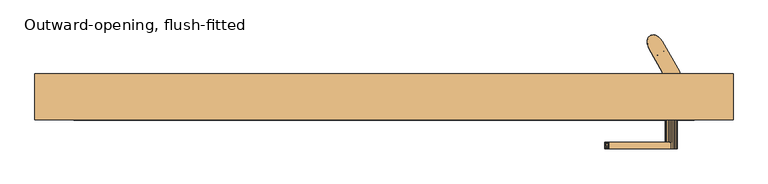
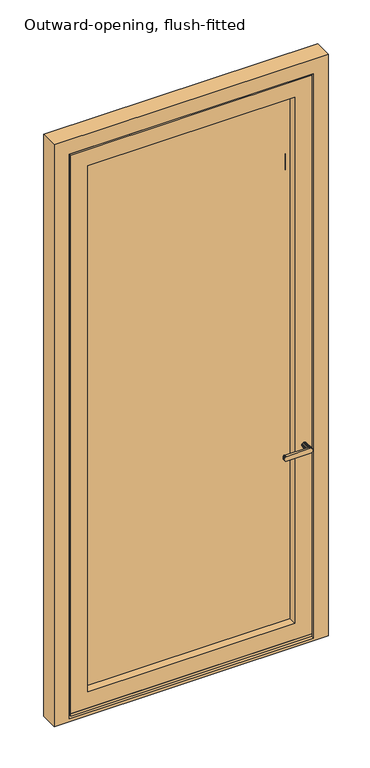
"""IFC4 building model written with IfcOpenShell, lengths in millimetres: door geometry, Outward-opening, flush-fitted."""

from ifc_helpers import new_model, si_unit, frame, origin, place, context, project, spatial, polyline, outline, extrude, faceted_brep, source, transform, mapped, element, save


def outward_opening_flush_fitted_d35c1155(model_context):
    return source(origin(), model_context, "Body", "SolidModel", [
        faceted_brep([(1042.3392583, 307.3, 3138.5), (1042.3392583, 307.3, 178.5), (1042.3392583, 380.7, 178.5), (1042.3392583, 380.7, 3138.5), (1062.8392583, 380.7, 3159.0), (-199.0, 380.7, 3159.0), (-199.0, 380.7, 158.0), (1062.8392583, 380.7, 158.0), (-178.5, 380.7, 3138.5), (-178.5, 380.7, 178.5), (-178.5, 307.3, 178.5), (-178.5, 307.3, 3138.5), (-167.0, 307.3, 3127.0), (1030.8392583, 307.3, 3127.0), (1030.8392583, 307.3, 190.0), (-167.0, 307.3, 190.0), (1030.8392583, 299.0, 3127.0), (1030.8392583, 299.0, 190.0), (-167.0, 299.0, 190.0), (-167.0, 299.0, 3127.0), (-81.9999695, 299.0, 3041.9999695), (945.8392277, 299.0, 3041.9999695), (945.8392277, 299.0, 275.0000305), (-81.9999695, 299.0, 275.0000305), (945.8392277, 340.0, 3041.9999695), (945.8392277, 340.0, 275.0000305), (-81.9999695, 340.0, 275.0000305), (-97.0, 340.0, 3057.0), (960.8392583, 340.0, 3057.0), (960.8392583, 340.0, 260.0), (-97.0, 340.0, 260.0), (-81.9999695, 340.0, 3041.9999695), (960.8392583, 378.0, 3057.0), (960.8392583, 378.0, 260.0), (-97.0, 378.0, 260.0), (-97.0, 378.0, 3057.0), (-80.0, 378.0, 3040.0), (943.8392583, 378.0, 3040.0), (943.8392583, 378.0, 277.0), (-80.0, 378.0, 277.0), (943.8392583, 389.0, 3040.0), (943.8392583, 389.0, 277.0), (-80.0, 389.0, 277.0), (-199.0, 389.0, 3159.0), (1062.8392583, 389.0, 3159.0), (1062.8392583, 389.0, 158.0), (-199.0, 389.0, 158.0), (-80.0, 389.0, 3040.0)], [[[0, 1, 2, 3]], [[4, 5, 6, 7], [8, 3, 2, 9]], [[1, 10, 9, 2]], [[0, 11, 10, 1], [12, 13, 14, 15]], [[16, 17, 14, 13]], [[17, 18, 15, 14]], [[16, 19, 18, 17], [20, 21, 22, 23]], [[24, 25, 22, 21]], [[25, 26, 23, 22]], [[27, 28, 29, 30], [24, 31, 26, 25]], [[32, 33, 29, 28]], [[33, 34, 30, 29]], [[32, 35, 34, 33], [36, 37, 38, 39]], [[40, 41, 38, 37]], [[41, 42, 39, 38]], [[43, 44, 45, 46], [40, 47, 42, 41]], [[4, 7, 45, 44]], [[7, 6, 46, 45]], [[10, 11, 8, 9]], [[18, 19, 12, 15]], [[26, 31, 20, 23]], [[34, 35, 27, 30]], [[42, 47, 36, 39]], [[6, 5, 43, 46]], [[11, 0, 3, 8]], [[19, 16, 13, 12]], [[31, 24, 21, 20]], [[35, 32, 28, 27]], [[47, 40, 37, 36]], [[5, 4, 44, 43]]]),
        extrude(outline(polyline([(960.8392583, 378.0), (960.8392583, 340.0), (-97.0, 340.0), (-97.0, 378.0), (960.8392583, 378.0)])), frame((0.0, 0.0, 260.0), z_axis=(0.0, 0.0, 1.0), x_axis=(1.0, 0.0, 0.0)), (0.0, 0.0, 1.0), 2797.0),
        faceted_brep([(-174.0, 299.0, 3134.0), (-174.0, 299.0, 165.0072496), (-174.0, 307.3, 167.8651688), (-174.0, 307.3, 3134.0), (-194.5, 307.3, 167.8651688), (-194.5, 307.3, 3154.5), (1058.3392583, 307.3, 3154.5), (1058.3392583, 307.3, 167.8651688), (1037.8392583, 307.3, 167.8651688), (1037.8392583, 307.3, 3134.0), (-194.5, 313.5, 170.0), (-194.5, 321.0, 170.0), (-194.5, 321.0, 164.3), (-194.5, 380.7, 164.3), (-194.5, 380.7, 3154.5), (-206.0, 388.9993365, 150.0), (-206.0, 388.9993365, 3166.0), (-206.0, 380.7, 3166.0), (-206.0, 380.7, 150.0), (-250.0, 388.9993365, 150.0), (-250.0, 388.9993365, 3210.0), (1113.8392583, 388.9993365, 3210.0), (1113.8392583, 388.9993365, 150.0), (1069.8392583, 388.9993365, 150.0), (1069.8392583, 388.9993365, 3166.0), (1037.8392583, 299.0, 165.0072496), (1037.8392583, 299.0, 3134.0), (1069.8392583, 380.7, 150.0), (1069.8392583, 380.7, 3166.0), (1058.3392583, 380.7, 3154.5), (1058.3392583, 380.7, 164.3), (1058.3392583, 321.0, 164.3), (1058.3392583, 321.0, 170.0), (1058.3392583, 313.5, 170.0), (-250.0, 299.0, 3210.0), (1113.8392583, 299.0, 3210.0), (-250.0, 299.0, 150.0), (1113.8392583, 299.0, 150.0)], [[[0, 1, 2, 3]], [[3, 2, 4, 5, 6, 7, 8, 9]], [[5, 4, 10, 11, 12, 13, 14]], [[15, 16, 17, 18]], [[19, 20, 21, 22, 23, 24, 16, 15]], [[9, 8, 25, 26]], [[24, 23, 27, 28]], [[29, 30, 31, 32, 33, 7, 6]], [[26, 0, 3, 9]], [[28, 17, 16, 24]], [[21, 20, 34, 35]], [[29, 6, 5, 14]], [[19, 36, 34, 20]], [[35, 37, 22, 21]], [[37, 35, 34, 36], [1, 0, 26, 25]], [[19, 15, 18, 27, 23, 22, 37, 36]], [[10, 4, 2, 1, 25, 8, 7, 33]], [[18, 17, 28, 27], [30, 29, 14, 13]], [[13, 12, 31, 30]], [[12, 11, 32, 31]], [[11, 10, 33, 32]]]),
        faceted_brep([(958.6459802, 464.9671188, 3103.5), (955.1598936, 464.7977178, 3103.5), (952.0594987, 463.6325784, 3103.5), (949.5002623, 461.5301259, 3103.5), (947.6105152, 458.5957857, 3103.5), (946.4850171, 454.9766982, 3103.5), (946.1802052, 450.8543393, 3103.5), (946.7113641, 446.4354214, 3103.5), (948.0518593, 441.9415275, 3103.5), (950.1344727, 437.5980002, 3103.5), (952.8547733, 433.622642, 3103.5), (956.0763541, 430.2147941, 3103.5), (959.6376714, 427.5453402, 3103.5), (963.3601459, 425.7481378, 3103.5), (967.0571172, 424.9133062, 3103.5), (970.5432038, 425.0827073, 3103.5), (973.6435986, 426.2478466, 3103.5), (976.202835, 428.3502991, 3103.5), (978.0925822, 431.2846393, 3103.5), (979.2180803, 434.9037268, 3103.5), (979.5228922, 439.0260857, 3103.5), (978.9917333, 443.4450036, 3103.5), (977.6512381, 447.9388975, 3103.5), (975.5686247, 452.2824248, 3103.5), (972.848324, 456.257783, 3103.5), (969.6267433, 459.6656309, 3103.5), (966.065426, 462.3350848, 3103.5), (962.3429515, 464.1322872, 3103.5), (976.202835, 428.3502991, 213.5), (973.6435986, 426.2478466, 213.5), (970.5432038, 425.0827073, 213.5), (967.0571172, 424.9133062, 213.5), (963.3601459, 425.7481378, 213.5), (959.6376714, 427.5453402, 213.5), (956.0763541, 430.2147941, 213.5), (952.8547733, 433.622642, 213.5), (950.1344727, 437.5980002, 213.5), (948.0518593, 441.9415275, 213.5), (946.7113641, 446.4354214, 213.5), (946.1802052, 450.8543393, 213.5), (946.4850171, 454.9766982, 213.5), (947.6105152, 458.5957857, 213.5), (949.5002623, 461.5301259, 213.5), (952.0594987, 463.6325784, 213.5), (955.1598936, 464.7977178, 213.5), (958.6459802, 464.9671188, 213.5), (962.3429515, 464.1322872, 213.5), (966.065426, 462.3350848, 213.5), (969.6267433, 459.6656309, 213.5), (972.848324, 456.257783, 213.5), (975.5686247, 452.2824248, 213.5), (977.6512381, 447.9388975, 213.5), (978.9917333, 443.4450036, 213.5), (979.5228922, 439.0260857, 213.5), (979.2180803, 434.9037268, 213.5), (978.0925822, 431.2846393, 213.5), (952.2887256, 463.7609343, 3039.7612202), (950.1344727, 437.5980002, 304.783489), (946.9477657, 456.8611962, 306.3237695), (960.4795512, 464.6737836, 3010.676228), (960.4795527, 464.6737832, 297.4293988), (959.0804371, 464.9198052, 446.6944318), (965.5122092, 462.6633417, 369.3240477), (953.5512165, 464.3371113, 368.0172447), (947.4290248, 458.1834463, 2875.4794892), (946.1725344, 451.4975723, 2947.6759605), (950.7034961, 462.6929778, 2948.98274), (953.2213947, 464.2065607, 2478.1094389), (964.9375224, 462.9813242, 2433.366327), (953.1615747, 464.18144, 2387.972511), (950.1344727, 437.5980002, 3012.216511), (975.5686247, 452.2824248, 3012.2165134), (975.5686247, 452.2824248, 304.7834866), (962.949455, 463.90456, 2922.0327645), (946.3789826, 454.3375828, 394.9672499), (950.1344727, 437.5980002, 396.066978), (951.8337255, 463.4982397, 277.2387736), (962.3830777, 464.1179974, 1435.6433105), (975.5686247, 452.2824248, 1491.4688512), (975.5686247, 452.2824248, 1479.816978), (975.5686247, 452.2824248, 1400.185359), (949.0311392, 460.9617113, 459.8390978), (953.8995907, 464.4609039, 526.5775533), (965.0997692, 462.8939051, 2701.4632106), (954.3276107, 464.5941609, 2731.5722903), (964.1727845, 463.3686784, 2789.8337304), (946.9477665, 456.8611986, 3019.5705949), (963.6876072, 463.5934845, 898.1262183), (964.4377647, 463.2390529, 991.9541054), (975.5686247, 452.2824248, 943.767915), (975.5686247, 452.2824248, 2920.9330213), (975.5686247, 452.2824248, 2833.5334894), (975.5686247, 452.2824248, 2829.649533), (975.5686247, 452.2824248, 2746.1339575), (946.204234, 450.2518328, 715.5592395), (946.1992756, 452.5037097, 806.8427277), (948.405811, 460.0659174, 753.748835), (963.6019504, 463.6314948, 2242.6546305), (949.326168, 461.3281065, 2186.2171541), (951.5970643, 463.3485788, 2283.8905959), (962.5876506, 464.0434335, 1517.9321883), (950.9734027, 462.9071638, 1569.1585234), (962.9986638, 463.8849811, 1613.8704529), (952.3076457, 463.771178, 2656.7924568), (952.7585443, 464.0001544, 2567.4509478), (946.2328093, 453.0285127, 2607.3749737), (952.0594987, 463.6325784, 1035.0514496), (950.9471644, 462.8869902, 938.4578574), (946.1734135, 451.2320884, 1881.8538044), (950.1344727, 437.5980002, 1837.183022), (950.1344727, 437.5980002, 1852.7188505), (950.1344727, 437.5980002, 1926.524533), (950.870913, 462.8275832, 1125.837811), (961.1086047, 464.517869, 1168.8726905), (963.7473428, 463.5666791, 1085.9473652), (950.9246591, 462.8695777, 1212.7139165), (946.1813416, 452.0537925, 1256.4632408), (950.7810268, 462.7560369, 1300.8775569), (950.9734026, 462.9071638, 1658.5823811), (946.1840297, 452.1403125, 1613.8292772), (946.1724667, 451.4091556, 2149.8783316), (950.1344727, 437.5980002, 2105.2075549), (950.1344727, 437.5980002, 2120.7433821), (950.1344727, 437.5980002, 2194.5490659), (975.5686247, 452.2824248, 1852.718854), (964.9472432, 462.9761385, 1808.0481216), (964.7349068, 463.0879095, 1899.8226875), (964.373556, 463.2709086, 2612.1217017), (946.1757368, 451.8128215, 1527.5583067), (950.1344727, 437.5980002, 1479.816978), (950.1344727, 437.5980002, 1491.4688498), (950.1344727, 437.5980002, 1569.158489), (951.5970642, 463.3485788, 1747.8415416), (946.2391269, 453.1083165, 1797.4267243), (952.5143149, 463.879689, 1844.8045559), (975.5686247, 452.2824248, 2478.109427), (964.9441315, 462.9777992, 2522.7801928), (950.8379452, 462.8015344, 2802.6217509), (955.1962103, 464.8050118, 2868.0801076), (946.1934997, 452.3830403, 1705.6035919), (975.5686247, 452.2824248, 852.4844284), (950.1344727, 437.5980002, 1211.7924451), (950.1344727, 437.5980002, 1217.6183832), (950.1344727, 437.5980002, 1301.133956), (975.5686247, 452.2824248, 1763.3773419), (964.4484628, 463.2337175, 1718.7066128), (946.1981492, 452.481305, 2327.1169999), (946.1968537, 452.4549077, 2418.8738478), (963.2217114, 463.7941617, 1263.2601666), (975.5686247, 452.2824248, 1308.9018724), (975.5686247, 452.2824248, 1301.133956), (975.5686247, 452.2824248, 1217.6183859), (950.1344727, 437.5980002, 2373.2320879), (975.5686247, 452.2824248, 1674.0358299), (975.5686247, 452.2824248, 1658.5), (975.5686247, 452.2824248, 1582.7523434), (946.1843619, 452.1502613, 1167.1147796), (946.2215537, 452.8747832, 1077.7802226), (946.197562, 452.4694262, 1349.0545448), (950.1344727, 437.5980002, 2464.5155769), (946.2502691, 453.240021, 2510.1573349), (975.5686247, 452.2824248, 2031.4018724), (964.0839403, 463.4110552, 1991.6458261), (965.7417202, 462.5298181, 2076.0726483), (949.5621398, 461.5995764, 682.8588012), (946.1850093, 452.1692553, 621.3637247), (946.248484, 453.219614, 532.9922607), (950.1344727, 437.5980002, 578.633956), (946.2675682, 453.4263296, 1441.7482187), (951.8153945, 463.4869765, 1390.4755053), (950.1344727, 437.5980002, 487.350467), (946.225101, 449.907579, 460.8624964), (968.7999052, 460.3765494, 453.7451278), (965.1700366, 462.8554716, 511.4648929), (951.1103087, 463.0102415, 603.806908), (950.1344727, 437.5980002, 669.9174451), (946.1764905, 451.8535427, 898.126215), (952.0594988, 463.6325785, 841.8642654), (962.2039874, 464.1809238, 659.1547405), (967.2788388, 461.5368909, 806.8427306), (965.4741897, 462.6850987, 2856.6324745), (961.5191439, 464.4012707, 583.1880996), (975.5686247, 452.2824248, 2738.366044), (975.5686247, 452.2824248, 2656.7924511), (946.259948, 453.3466495, 2699.940621), (946.1747849, 451.7539259, 2807.3986574), (946.5343605, 447.3587256, 2866.1656853), (975.5686247, 452.2824248, 2567.450939), (975.5686247, 452.2824248, 2647.0825549), (975.5686247, 452.2824248, 2464.5155769), (975.5686247, 452.2824248, 2388.767915), (964.0905111, 463.4079398, 2334.4675158), (975.5686247, 452.2824248, 2299.4264029), (975.5686247, 452.2824248, 2283.8905769), (975.5686247, 452.2824248, 2210.0848909), (950.1344727, 437.5980002, 2388.7679137), (950.1344727, 437.5980002, 2555.7990659), (950.1344727, 437.5980002, 2478.1094224), (950.1344727, 437.5980002, 2647.0825549), (950.1344727, 437.5980002, 2656.7924454), (950.1344727, 437.5980002, 2738.366044), (946.2313465, 453.0094265, 2235.3144708), (950.1344727, 437.5980002, 2283.8905769), (948.8604882, 460.7345832, 2121.0154935), (975.5686247, 452.2824248, 578.6339575), (967.5232923, 461.3627096, 2165.4141571), (975.5686247, 452.2824248, 2194.5490659), (975.5686247, 452.2824248, 2120.7433788), (947.112247, 457.3594205, 2060.5368228), (950.1344727, 437.5980002, 2015.866044), (950.1344727, 437.5980002, 2031.4018734), (954.8103488, 464.7208451, 2041.9850456), (946.2104469, 452.7039869, 1971.1953135), (975.5686247, 452.2824248, 2555.7990659), (950.1344727, 437.5980002, 2210.0848908), (950.1344727, 437.5980002, 2299.4264051), (946.1843849, 452.1509445, 988.4387133), (950.1344727, 437.5980002, 1033.1094231), (950.1344727, 437.5980002, 2567.4509367), (975.5686247, 452.2824248, 396.0669787), (950.1344727, 437.5980002, 2829.649533), (950.1344727, 437.5980002, 2920.933022), (950.1344727, 437.5980002, 2746.1339541), (950.1344727, 437.5980002, 761.2009341), (956.474285, 464.9831179, 2138.6482318), (975.5686247, 452.2824248, 669.917444), (968.0481522, 460.9730561, 719.6075288), (958.3133803, 464.9937381, 754.3114731), (975.5686247, 452.2824248, 761.2009362), (950.1344727, 437.5980002, 852.4844231), (950.1344727, 437.5980002, 943.7679121), (975.5686247, 452.2824248, 1035.0514015), (975.5686247, 452.2824248, 1211.7924451), (975.5686247, 452.2824248, 1126.3348937), (964.6142631, 463.1500152, 1354.5436536), (975.5686247, 452.2824248, 1390.475467), (950.1344727, 437.5980002, 1122.4509341), (950.1344727, 437.5980002, 1035.0514054), (975.5686247, 452.2824248, 1122.4509341), (975.5686247, 452.2824248, 1033.1094231), (950.1344727, 437.5980002, 1126.3348943), (950.1344727, 437.5980002, 1390.475467), (950.1344727, 437.5980002, 1400.1853609), (951.8770015, 463.5246154, 1475.3268617), (950.1344727, 437.5980002, 1308.901872), (950.1344727, 437.5980002, 1658.5), (950.1344727, 437.5980002, 1582.7523386), (950.1344727, 437.5980002, 1747.841511), (950.1344727, 437.5980002, 1763.3773418), (975.5686247, 452.2824248, 1569.158489), (950.1344727, 437.5980002, 1942.0603591), (975.5686247, 452.2824248, 1747.841511), (952.5366668, 463.891059, 1942.0603856), (975.5686247, 452.2824248, 1837.183022), (975.5686247, 452.2824248, 1942.060366), (975.5686247, 452.2824248, 2105.2075549), (950.1344727, 437.5980002, 1674.0358275), (975.5686247, 452.2824248, 2015.866044), (975.5686247, 452.2824248, 1926.524533), (975.5686247, 452.2824248, 487.3504709), (975.5686247, 452.2824248, 2373.2320879), (950.1344727, 437.5980002, 2833.5334882), (973.4143718, 426.1194907, 3039.7612202), (978.7553317, 433.0192288, 306.3237695), (965.2235462, 425.2066414, 3010.676228), (965.2235447, 425.2066418, 297.4293988), (966.6226603, 424.9606198, 446.6944318), (960.1908882, 427.2170833, 369.3240477), (972.1518808, 425.5433137, 368.0172447), (978.2740726, 431.6969787, 2875.4794892), (979.530563, 438.3828527, 2947.6759605), (974.9996012, 427.1874472, 2948.98274), (972.4817027, 425.6738643, 2478.1094389), (960.7655749, 426.8991008, 2433.366327), (972.5415227, 425.698985, 2387.972511), (962.7536424, 425.975865, 2922.0327645), (979.3241148, 435.5428422, 394.9672499), (973.8693719, 426.3821853, 277.2387736), (963.3200197, 425.7624276, 1435.6433105), (976.6719582, 428.9187137, 459.8390978), (971.8035066, 425.4195211, 526.5775533), (960.6033282, 426.9865199, 2701.4632106), (971.3754867, 425.2862641, 2731.5722903), (961.5303128, 426.5117466, 2789.8337304), (978.7553309, 433.0192264, 3019.5705949), (962.0154901, 426.2869405, 898.1262183), (961.2653327, 426.6413721, 991.9541054), (979.4988634, 439.6285922, 715.5592395), (979.5038217, 437.3767153, 806.8427277), (977.2972863, 429.8145076, 753.748835), (962.1011469, 426.2489302, 2242.6546305), (976.3769293, 428.5523186, 2186.2171541), (974.1060331, 426.5318462, 2283.8905959), (963.1154467, 425.8369915, 1517.9321883), (974.7296947, 426.9732612, 1569.1585234), (962.7044336, 425.9954439, 1613.8704529), (973.3954516, 426.109247, 2656.7924568), (961.3295414, 426.6095164, 2612.1217017), (972.944553, 425.8802706, 2567.4509478), (973.6435987, 426.2478466, 1035.0514496), (974.7559329, 426.9934348, 938.4578574), (979.5296839, 438.6483366, 1881.8538044), (974.8321844, 427.0528418, 1125.837811), (964.5944927, 425.362556, 1168.8726905), (961.9557546, 426.3137459, 1085.9473652), (974.7784383, 427.0108473, 1212.7139165), (979.5217558, 437.8266325, 1256.4632408), (974.9220706, 427.1243881, 1300.8775569), (974.7296947, 426.9732612, 1658.5823811), (979.5190676, 437.7401125, 1613.8292772), (979.5306307, 438.4712695, 2149.8783316), (960.7558542, 426.9042865, 1808.0481216), (960.9681905, 426.7925155, 1899.8226875), (979.5273606, 438.0676035, 1527.5583067), (974.1060331, 426.5318462, 1747.8415416), (979.4639704, 436.7721085, 1797.4267243), (973.1887825, 426.000736, 1844.8045559), (960.7589659, 426.9026258, 2522.7801928), (974.8651522, 427.0788906, 2802.6217509), (970.5068871, 425.0754132, 2868.0801076), (979.5095977, 437.4973847, 1705.6035919), (961.2546346, 426.6467075, 1718.7066128), (979.5049482, 437.39912, 2327.1169999), (979.5062437, 437.4255173, 2418.8738478), (962.481386, 426.0862633, 1263.2601666), (979.5187355, 437.7301637, 1167.1147796), (979.4815437, 437.0056418, 1077.7802226), (979.5055354, 437.4109988, 1349.0545448), (979.4528283, 436.640404, 2510.1573349), (961.619157, 426.4693698, 1991.6458261), (959.9613772, 427.3506069, 2076.0726483), (976.1409575, 428.2808486, 682.8588012), (979.5180881, 437.7111697, 621.3637247), (979.4546133, 436.660811, 532.9922607), (979.4702881, 436.8519123, 2607.3749737), (979.4355292, 436.4540954, 1441.7482187), (973.8877028, 426.3934485, 1390.4755053), (979.4779964, 439.972846, 460.8624964), (956.9031922, 429.5038756, 453.7451278), (960.5330608, 427.0249534, 511.4648929), (974.5927887, 426.8701835, 603.806908), (979.5266068, 438.0268823, 898.126215), (973.6435986, 426.2478465, 841.8642654), (963.4991099, 425.6995012, 659.1547405), (958.4242585, 428.3435341, 806.8427306), (960.2289076, 427.1953263, 2856.6324745), (964.1839535, 425.4791543, 583.1880996), (979.4431494, 436.5337755, 2699.940621), (979.5283125, 438.1264991, 2807.3986574), (979.1687369, 442.5216994, 2866.1656853), (961.6125863, 426.4724852, 2334.4675158), (979.4717508, 436.8709985, 2235.3144708), (976.8426091, 429.1458418, 2121.0154935), (958.1798051, 428.5177154, 2165.4141571), (978.5908503, 432.5210045, 2060.5368228), (970.8927485, 425.1595799, 2041.9850456), (979.4926504, 437.1764381, 1971.1953135), (979.5187125, 437.7294805, 988.4387133), (969.2288124, 424.8973071, 2138.6482318), (957.6549451, 428.9073689, 719.6075288), (967.3897171, 424.8866869, 754.3114731), (961.0888343, 426.7304098, 1354.5436536), (973.8260958, 426.3558096, 1475.3268617), (973.1664306, 425.989366, 1942.0603856)], [[[0, 1, 2, 3, 4, 5, 6, 7, 8, 9, 10, 11, 12, 13, 14, 15, 16, 17, 18, 19, 20, 21, 22, 23, 24, 25, 26, 27]], [[28, 29, 30, 31, 32, 33, 34, 35, 36, 37, 38, 39, 40, 41, 42, 43, 44, 45, 46, 47, 48, 49, 50, 51, 52, 53, 54, 55]], [[56, 3, 2]], [[38, 57, 58]], [[26, 25, 59]], [[59, 0, 27]], [[47, 60, 48]], [[61, 62, 63]], [[56, 1, 0]], [[64, 65, 66]], [[45, 60, 46]], [[67, 68, 69]], [[70, 9, 8]], [[37, 36, 57]], [[24, 23, 71]], [[72, 50, 49]], [[66, 59, 73]], [[47, 46, 60]], [[74, 57, 75]], [[58, 76, 41]], [[77, 78, 79, 80]], [[25, 24, 71]], [[81, 82, 61]], [[83, 84, 85]], [[6, 86, 7]], [[7, 70, 8]], [[87, 88, 89]], [[58, 57, 74]], [[60, 62, 72]], [[26, 59, 27]], [[73, 71, 90]], [[86, 65, 70]], [[76, 45, 44]], [[39, 58, 40]], [[85, 91, 92, 93]], [[94, 95, 96]], [[76, 44, 43]], [[97, 98, 99]], [[6, 5, 86]], [[100, 101, 102]], [[59, 56, 0]], [[86, 56, 66]], [[103, 104, 105]], [[58, 41, 40]], [[38, 37, 57]], [[60, 45, 76]], [[25, 71, 59]], [[76, 42, 41]], [[4, 3, 56]], [[63, 58, 74]], [[60, 76, 63]], [[4, 86, 5]], [[38, 58, 39]], [[48, 72, 49]], [[106, 88, 107]], [[56, 86, 4]], [[60, 72, 48]], [[59, 71, 73]], [[65, 86, 66]], [[62, 60, 63]], [[86, 70, 7]], [[108, 109, 110, 111]], [[112, 113, 114]], [[115, 116, 117]], [[118, 101, 119]], [[120, 121, 122, 123]], [[124, 125, 126]], [[127, 104, 103]], [[128, 129, 130, 131]], [[132, 133, 134]], [[135, 68, 136]], [[137, 64, 138]], [[119, 139, 118]], [[89, 140, 87]], [[116, 141, 142, 143]], [[144, 145, 125]], [[69, 146, 147]], [[148, 149, 150, 151]], [[147, 146, 152]], [[132, 139, 133]], [[102, 153, 154, 155]], [[156, 112, 157]], [[158, 117, 116]], [[159, 160, 147]], [[161, 162, 163]], [[96, 164, 94]], [[165, 166, 167]], [[67, 136, 68]], [[160, 105, 104]], [[118, 145, 102]], [[158, 168, 169]], [[75, 170, 171]], [[172, 61, 173]], [[166, 170, 167]], [[174, 166, 165]], [[94, 165, 175]], [[81, 171, 166]], [[166, 82, 81]], [[95, 176, 177]], [[174, 164, 178]], [[87, 179, 177]], [[90, 91, 180]], [[174, 178, 181]], [[83, 93, 182, 183]], [[105, 184, 103]], [[185, 186, 64]], [[83, 85, 93]], [[85, 138, 180]], [[85, 137, 138]], [[136, 127, 187]], [[127, 183, 188, 187]], [[103, 84, 83]], [[183, 127, 83]], [[103, 83, 127]], [[68, 135, 189, 190]], [[104, 136, 67]], [[191, 68, 190]], [[68, 191, 69]], [[97, 192, 193, 194]], [[192, 97, 191]], [[191, 99, 69]], [[147, 152, 195, 159]], [[160, 196, 105]], [[160, 159, 197, 196]], [[147, 67, 69]], [[184, 198, 199, 200]], [[198, 184, 105]], [[67, 147, 160]], [[146, 69, 99]], [[201, 146, 99]], [[201, 202, 146]], [[191, 97, 99]], [[98, 203, 120]], [[178, 204, 181]], [[205, 194, 206, 207]], [[208, 209, 210, 121]], [[201, 120, 123]], [[211, 212, 208]], [[136, 187, 213, 135]], [[136, 104, 127]], [[104, 67, 160]], [[201, 123, 214, 202]], [[146, 202, 215, 152]], [[98, 120, 201]], [[157, 216, 217]], [[141, 116, 156]], [[208, 121, 120]], [[138, 66, 73]], [[84, 184, 137]], [[105, 196, 218, 198]], [[61, 82, 173]], [[72, 62, 219]], [[81, 63, 74]], [[61, 172, 62]], [[82, 181, 173]], [[220, 186, 185]], [[70, 65, 221]], [[185, 184, 200]], [[64, 186, 65]], [[64, 137, 185]], [[184, 185, 137]], [[185, 200, 222, 220]], [[175, 223, 94]], [[174, 165, 164]], [[165, 167, 175]], [[205, 97, 194]], [[98, 97, 224]], [[63, 81, 61]], [[81, 74, 171]], [[225, 178, 226]], [[166, 174, 82]], [[164, 227, 178]], [[181, 82, 174]], [[204, 178, 225]], [[228, 179, 140]], [[226, 178, 227]], [[107, 87, 177]], [[179, 228, 226]], [[87, 107, 88]], [[95, 223, 229]], [[216, 230, 217]], [[95, 229, 176]], [[230, 176, 229]], [[177, 227, 96]], [[114, 88, 106]], [[114, 231, 88]], [[112, 114, 106]], [[113, 151, 232, 233]], [[117, 148, 115]], [[114, 113, 233]], [[234, 80, 235, 149]], [[156, 157, 236]], [[157, 217, 237, 236]], [[216, 106, 107]], [[106, 216, 157]], [[176, 216, 107]], [[216, 176, 230]], [[176, 107, 177]], [[114, 233, 238, 231]], [[88, 231, 239, 89]], [[112, 156, 115]], [[156, 236, 240, 141]], [[116, 143, 158]], [[156, 116, 115]], [[168, 241, 242, 129]], [[241, 168, 158]], [[131, 119, 128]], [[243, 101, 100]], [[158, 169, 117]], [[117, 169, 234]], [[112, 115, 113]], [[106, 157, 112]], [[158, 143, 244, 241]], [[119, 245, 139]], [[119, 131, 246, 245]], [[101, 243, 128]], [[133, 247, 248, 109]], [[247, 133, 139]], [[139, 132, 118]], [[118, 102, 101]], [[118, 132, 145]], [[155, 100, 102]], [[100, 155, 249, 78]], [[212, 111, 250, 209]], [[108, 133, 109]], [[133, 108, 134]], [[134, 126, 125]], [[145, 144, 251, 153]], [[208, 212, 209]], [[108, 252, 134]], [[125, 124, 253, 144]], [[102, 145, 153]], [[125, 132, 134]], [[148, 234, 149]], [[168, 243, 169]], [[234, 77, 80]], [[132, 125, 145]], [[126, 134, 252]], [[162, 126, 252]], [[162, 254, 126]], [[117, 234, 148]], [[169, 243, 77]], [[252, 212, 211]], [[163, 207, 255, 161]], [[115, 148, 113]], [[151, 113, 148]], [[101, 128, 119]], [[129, 128, 168]], [[139, 245, 256, 247]], [[162, 161, 257, 254]], [[126, 254, 258, 124]], [[173, 204, 259]], [[204, 173, 181]], [[172, 173, 259]], [[111, 212, 108]], [[108, 212, 252]], [[211, 224, 163]], [[211, 163, 162]], [[205, 163, 224]], [[252, 211, 162]], [[211, 208, 203]], [[243, 168, 128]], [[77, 243, 100]], [[77, 100, 78]], [[169, 77, 234]], [[191, 190, 260, 192]], [[66, 138, 64]], [[138, 73, 180]], [[90, 180, 73]], [[91, 85, 180]], [[95, 94, 223]], [[165, 94, 164]], [[75, 171, 74]], [[166, 171, 170]], [[177, 96, 95]], [[227, 164, 96]], [[99, 98, 201]], [[203, 98, 224]], [[211, 203, 224]], [[120, 203, 208]], [[177, 179, 227]], [[87, 140, 179]], [[163, 205, 207]], [[97, 205, 224]], [[259, 219, 172]], [[62, 172, 219]], [[186, 220, 261, 221]], [[65, 186, 221]], [[42, 76, 43]], [[63, 76, 58]], [[1, 56, 2]], [[66, 56, 59]], [[184, 84, 103]], [[85, 84, 137]], [[179, 226, 227]], [[225, 226, 228]], [[262, 17, 16]], [[52, 72, 263]], [[12, 11, 264]], [[264, 14, 13]], [[33, 265, 34]], [[266, 267, 268]], [[262, 15, 14]], [[269, 270, 271]], [[31, 265, 32]], [[272, 273, 274]], [[71, 23, 22]], [[51, 50, 72]], [[10, 9, 70]], [[57, 36, 35]], [[271, 264, 275]], [[33, 32, 265]], [[276, 72, 219]], [[263, 277, 55]], [[278, 130, 129, 242]], [[11, 10, 70]], [[279, 280, 266]], [[281, 282, 283]], [[20, 284, 21]], [[21, 71, 22]], [[285, 286, 230]], [[263, 72, 276]], [[265, 267, 57]], [[12, 264, 13]], [[275, 70, 221]], [[284, 270, 71]], [[277, 31, 30]], [[53, 263, 54]], [[283, 261, 220, 222]], [[287, 288, 289]], [[277, 30, 29]], [[290, 291, 292]], [[20, 19, 284]], [[293, 294, 295]], [[264, 262, 14]], [[284, 262, 271]], [[296, 297, 298]], [[263, 55, 54]], [[52, 51, 72]], [[265, 31, 277]], [[11, 70, 264]], [[277, 28, 55]], [[18, 17, 262]], [[268, 263, 276]], [[265, 277, 268]], [[18, 284, 19]], [[52, 263, 53]], [[34, 57, 35]], [[299, 286, 300]], [[262, 284, 18]], [[265, 57, 34]], [[264, 70, 275]], [[270, 284, 271]], [[267, 265, 268]], [[284, 71, 21]], [[301, 253, 124, 258]], [[302, 303, 304]], [[305, 306, 307]], [[308, 294, 309]], [[310, 255, 207, 206]], [[110, 311, 312]], [[282, 281, 296]], [[313, 79, 78, 249]], [[314, 315, 316]], [[272, 298, 317]], [[318, 269, 319]], [[309, 320, 308]], [[230, 229, 285]], [[306, 232, 151, 150]], [[248, 321, 311]], [[274, 322, 323]], [[324, 244, 143, 142]], [[323, 322, 260]], [[314, 320, 315]], [[295, 256, 245, 246]], [[325, 302, 326]], [[327, 307, 306]], [[189, 328, 323]], [[210, 329, 330]], [[289, 331, 287]], [[332, 333, 204]], [[272, 317, 273]], [[328, 334, 298]], [[308, 321, 295]], [[327, 335, 336]], [[219, 259, 337]], [[338, 266, 339]], [[333, 259, 204]], [[340, 333, 332]], [[287, 332, 225]], [[279, 337, 333]], [[333, 280, 279]], [[288, 341, 342]], [[340, 331, 343]], [[285, 344, 342]], [[221, 261, 345]], [[340, 343, 346]], [[281, 222, 200, 199]], [[334, 347, 296]], [[348, 349, 269]], [[281, 283, 222]], [[283, 319, 345]], [[283, 318, 319]], [[317, 297, 218]], [[297, 199, 198, 218]], [[297, 317, 298]], [[199, 297, 281]], [[296, 281, 297]], [[273, 197, 159, 195]], [[197, 273, 317]], [[350, 273, 195]], [[273, 350, 274]], [[290, 215, 202, 214]], [[215, 290, 350]], [[350, 292, 274]], [[323, 260, 190, 189]], [[328, 213, 334]], [[328, 189, 135, 213]], [[323, 272, 274]], [[347, 188, 183, 182]], [[188, 347, 334]], [[272, 323, 328]], [[322, 274, 292]], [[351, 322, 292]], [[351, 193, 322]], [[350, 290, 292]], [[291, 352, 310]], [[343, 167, 346]], [[353, 214, 123, 122]], [[354, 257, 161, 255]], [[351, 310, 206]], [[355, 356, 354]], [[317, 218, 196, 197]], [[328, 298, 272]], [[334, 296, 298]], [[351, 206, 194, 193]], [[322, 193, 192, 260]], [[291, 310, 351]], [[326, 357, 239]], [[232, 306, 325]], [[354, 255, 310]], [[319, 271, 275]], [[282, 347, 318]], [[334, 213, 187, 188]], [[266, 280, 339]], [[57, 267, 75]], [[279, 268, 276]], [[266, 338, 267]], [[280, 346, 339]], [[92, 349, 348]], [[71, 270, 90]], [[348, 347, 182]], [[269, 349, 270]], [[269, 318, 348]], [[347, 348, 318]], [[348, 182, 93, 92]], [[225, 228, 287]], [[340, 332, 331]], [[332, 204, 225]], [[353, 290, 214]], [[291, 290, 358]], [[268, 279, 266]], [[279, 276, 337]], [[175, 343, 359]], [[333, 340, 280]], [[331, 360, 343]], [[346, 280, 340]], [[167, 343, 175]], [[223, 344, 229]], [[359, 343, 360]], [[300, 285, 342]], [[344, 223, 359]], [[285, 300, 286]], [[288, 228, 140]], [[357, 89, 239]], [[288, 140, 341]], [[89, 341, 140]], [[342, 360, 289]], [[304, 286, 299]], [[304, 237, 286]], [[302, 304, 299]], [[303, 142, 141, 240]], [[307, 324, 305]], [[304, 303, 240]], [[361, 242, 241, 244]], [[325, 326, 238]], [[326, 239, 231, 238]], [[357, 299, 300]], [[299, 357, 326]], [[341, 357, 300]], [[357, 341, 89]], [[341, 300, 342]], [[304, 240, 236, 237]], [[286, 237, 217, 230]], [[302, 325, 305]], [[325, 238, 233, 232]], [[306, 150, 327]], [[325, 306, 305]], [[335, 235, 80, 79]], [[235, 335, 327]], [[249, 309, 313]], [[362, 294, 293]], [[327, 336, 307]], [[307, 336, 361]], [[302, 305, 303]], [[299, 326, 302]], [[327, 150, 149, 235]], [[309, 154, 320]], [[309, 249, 155, 154]], [[294, 362, 313]], [[315, 251, 144, 253]], [[251, 315, 320]], [[320, 314, 308]], [[308, 295, 294]], [[308, 314, 321]], [[246, 293, 295]], [[293, 246, 131, 130]], [[356, 258, 254, 257]], [[301, 315, 253]], [[315, 301, 316]], [[316, 312, 311]], [[321, 248, 247, 256]], [[354, 356, 257]], [[301, 363, 316]], [[311, 110, 109, 248]], [[295, 321, 256]], [[311, 314, 316]], [[324, 361, 244]], [[335, 362, 336]], [[361, 278, 242]], [[314, 311, 321]], [[312, 316, 363]], [[329, 312, 363]], [[329, 250, 312]], [[307, 361, 324]], [[336, 362, 278]], [[363, 356, 355]], [[330, 122, 121, 210]], [[305, 324, 303]], [[142, 303, 324]], [[294, 313, 309]], [[79, 313, 335]], [[320, 154, 153, 251]], [[329, 210, 209, 250]], [[312, 250, 111, 110]], [[339, 167, 170]], [[167, 339, 346]], [[338, 339, 170]], [[258, 356, 301]], [[301, 356, 363]], [[355, 358, 330]], [[355, 330, 329]], [[353, 330, 358]], [[363, 355, 329]], [[355, 354, 352]], [[362, 335, 313]], [[278, 362, 293]], [[278, 293, 130]], [[336, 278, 361]], [[350, 195, 152, 215]], [[271, 319, 269]], [[319, 275, 345]], [[221, 345, 275]], [[261, 283, 345]], [[288, 287, 228]], [[332, 287, 331]], [[219, 337, 276]], [[333, 337, 259]], [[342, 289, 288]], [[360, 331, 289]], [[292, 291, 351]], [[352, 291, 358]], [[355, 352, 358]], [[310, 352, 354]], [[342, 344, 360]], [[285, 229, 344]], [[330, 353, 122]], [[290, 353, 358]], [[170, 75, 338]], [[267, 338, 75]], [[349, 92, 91, 90]], [[270, 349, 90]], [[28, 277, 29]], [[268, 277, 263]], [[15, 262, 16]], [[271, 262, 264]], [[347, 282, 296]], [[283, 282, 318]], [[344, 359, 360]], [[175, 359, 223]]]),
        faceted_brep([(1004.4193864, 299.0, 1203.102886), (1004.8278891, 299.0, 1200.0), (1004.4193864, 299.0, 1196.897114), (1003.2217171, 299.0, 1194.0056846), (1001.3165004, 299.0, 1191.5227579), (998.8335737, 299.0, 1189.6175412), (995.9421442, 299.0, 1188.4198719), (992.8392583, 299.0, 1188.0113692), (989.7363723, 299.0, 1188.4198719), (986.8449428, 299.0, 1189.6175412), (984.3620161, 299.0, 1191.5227579), (982.4567994, 299.0, 1194.0056846), (981.2591301, 299.0, 1196.897114), (980.8506274, 299.0, 1200.0), (981.2591301, 299.0, 1203.102886), (982.4567994, 299.0, 1205.9943154), (984.3620161, 299.0, 1208.4772421), (986.8449428, 299.0, 1210.3824588), (989.7363723, 299.0, 1211.5801281), (992.8392583, 299.0, 1211.9886308), (995.9421442, 299.0, 1211.5801281), (998.8335737, 299.0, 1210.3824588), (1001.3165004, 299.0, 1208.4772421), (1003.2217171, 299.0, 1205.9943154), (992.8392583, 255.5001175, 1188.0113692), (989.7363723, 255.5001175, 1188.4198719), (986.8449428, 255.5001175, 1189.6175412), (984.3620161, 255.5001175, 1191.5227579), (982.4567994, 255.5001175, 1194.0056846), (981.2591301, 255.5001175, 1196.897114), (980.8506274, 255.5001175, 1200.0), (981.2591301, 255.5001175, 1203.102886), (982.4567994, 255.5001175, 1205.9943154), (984.3620161, 255.5001175, 1208.4772421), (986.8449428, 255.5001175, 1210.3824588), (989.7363723, 255.5001175, 1211.5801281), (992.8392583, 255.5001175, 1211.9886308), (992.8392583, 243.0000305, 1211.9886308), (995.9421442, 243.0000305, 1211.5801281), (998.8335737, 243.0000305, 1210.3824588), (1001.3165004, 243.0000305, 1208.4772421), (1003.2217171, 243.0000305, 1205.9943154), (1004.4193864, 243.0000305, 1203.102886), (1004.8278891, 243.0000305, 1200.0), (1004.4193864, 243.0000305, 1196.897114), (1003.2217171, 243.0000305, 1194.0056846), (1001.3165004, 243.0000305, 1191.5227579), (998.8335737, 243.0000305, 1189.6175412), (995.9421442, 243.0000305, 1188.4198719), (992.8392583, 243.0000305, 1188.0113692), (871.1774656, 243.0000305, 1211.9886308), (869.6352611, 243.0000305, 1211.7582726), (868.1523227, 243.0000305, 1211.0760506), (866.7856388, 243.0000305, 1209.9681822), (865.5877303, 243.0000305, 1208.4772421), (864.6046323, 243.0000305, 1206.6605264), (863.8741245, 243.0000305, 1204.5878504), (863.42428, 243.0000305, 1202.3388658), (863.2723861, 243.0000305, 1200.0), (863.42428, 243.0000305, 1197.6611342), (863.8741245, 243.0000305, 1195.4121496), (864.6046323, 243.0000305, 1193.3394736), (865.5877303, 243.0000305, 1191.5227579), (866.7856388, 243.0000305, 1190.0318178), (868.1523227, 243.0000305, 1188.9239494), (869.6352611, 243.0000305, 1188.2417274), (871.1774656, 243.0000305, 1188.0113692), (863.42428, 255.5001175, 1197.6611342), (863.2723861, 255.5001175, 1200.0), (863.42428, 255.5001175, 1202.3388658), (863.8741245, 255.5001175, 1204.5878504), (864.6046323, 255.5001175, 1206.6605264), (865.5877303, 255.5001175, 1208.4772421), (866.7856388, 255.5001175, 1209.9681822), (868.1523227, 255.5001175, 1211.0760506), (869.6352611, 255.5001175, 1211.7582726), (871.1774656, 255.5001175, 1211.9886308), (871.1774656, 255.5001175, 1188.0113692), (869.6352611, 255.5001175, 1188.2417274), (868.1523227, 255.5001175, 1188.9239494), (866.7856388, 255.5001175, 1190.0318178), (865.5877303, 255.5001175, 1191.5227579), (864.6046323, 255.5001175, 1193.3394736), (863.8741245, 255.5001175, 1195.4121496), (871.1774656, 250.0756599, 1188.0113692), (867.451037, 249.2500761, 1189.4269715), (865.0667565, 249.2500743, 1192.3944932), (863.6127762, 249.250074, 1196.5198842), (864.2058079, 249.250074, 1205.6514014), (863.3104513, 249.2500741, 1201.1750915), (866.1625363, 249.250074, 1209.2673369), (868.8827422, 249.250074, 1211.4724044), (871.1774656, 249.250074, 1211.9886308)], [[[0, 1, 2, 3, 4, 5, 6, 7, 8, 9, 10, 11, 12, 13, 14, 15, 16, 17, 18, 19, 20, 21, 22, 23]], [[7, 24, 25, 8]], [[8, 25, 26, 9]], [[11, 10, 27, 28]], [[27, 10, 9, 26]], [[12, 11, 28, 29]], [[12, 29, 30, 13]], [[13, 30, 31, 14]], [[14, 31, 32, 15]], [[17, 16, 33, 34]], [[33, 16, 15, 32]], [[18, 17, 34, 35]], [[18, 35, 36, 19]], [[19, 36, 37, 38, 20]], [[20, 38, 39, 21]], [[23, 22, 40, 41]], [[40, 22, 21, 39]], [[0, 23, 41, 42]], [[0, 42, 43, 1]], [[1, 43, 44, 2]], [[2, 44, 45, 3]], [[5, 4, 46, 47]], [[46, 4, 3, 45]], [[6, 5, 47, 48]], [[6, 48, 49, 24, 7]], [[44, 43, 42, 41, 40, 39, 38, 37, 50, 51, 52, 53, 54, 55, 56, 57, 58, 59, 60, 61, 62, 63, 64, 65, 66, 49, 48, 47, 46, 45]], [[67, 68, 69, 70, 71, 72, 73, 74, 75, 76, 36, 35, 34, 33, 32, 31, 30, 29, 28, 27, 26, 25, 24, 77, 78, 79, 80, 81, 82, 83]], [[24, 49, 66, 84, 77]], [[65, 64, 85]], [[86, 85, 63]], [[82, 87, 83]], [[80, 86, 81]], [[69, 88, 70]], [[84, 85, 78]], [[87, 60, 59]], [[89, 57, 56]], [[60, 87, 86]], [[73, 90, 91, 74]], [[62, 61, 86]], [[90, 72, 71, 88]], [[89, 87, 58]], [[79, 85, 80]], [[78, 77, 84]], [[65, 84, 66]], [[79, 78, 85]], [[87, 59, 58]], [[63, 85, 64]], [[61, 60, 86]], [[63, 62, 86]], [[81, 86, 82]], [[80, 85, 86]], [[75, 92, 76]], [[51, 50, 92]], [[88, 55, 54, 90]], [[82, 86, 87]], [[84, 65, 85]], [[67, 83, 87]], [[53, 52, 91, 90]], [[67, 87, 89]], [[88, 56, 55]], [[56, 88, 89]], [[52, 51, 91]], [[90, 54, 53]], [[68, 67, 89]], [[68, 89, 69]], [[69, 89, 88]], [[70, 88, 71]], [[51, 92, 91]], [[90, 73, 72]], [[74, 91, 75]], [[91, 92, 75]], [[89, 58, 57]], [[37, 36, 76, 92, 50]]]),
        faceted_brep([(1009.7953587, 393.0, 243.5), (975.8831578, 393.0, 243.5), (975.8831578, 389.0, 243.5), (1009.7953587, 389.0, 243.5), (1009.7953587, 393.0, 213.5), (975.8831578, 393.0, 213.5), (975.8831578, 393.0, 209.5), (975.8831578, 389.0, 209.5), (1009.7953587, 389.0, 209.5), (1009.7953587, 393.0, 209.5), (955.1598957, 464.7977182, 213.5), (952.0595003, 463.6325794, 213.5), (949.5002634, 461.5301271, 213.5), (947.6105158, 458.5957871, 213.5), (946.4850173, 454.9766994, 213.5), (946.1802052, 450.8543403, 213.5), (946.711364, 446.4354221, 213.5), (948.0518591, 441.9415279, 213.5), (950.1344727, 437.5980002, 213.5), (975.5686274, 452.2824201, 213.5), (972.8483271, 456.2577791, 213.5), (969.6267466, 459.6656279, 213.5), (966.0654292, 462.3350828, 213.5), (962.3429545, 464.1322861, 213.5), (958.6459828, 464.9671186, 213.5), (950.1344727, 437.5980002, 209.5), (948.0518591, 441.9415279, 209.5), (946.711364, 446.4354221, 209.5), (946.1802052, 450.8543403, 209.5), (946.4850173, 454.9766994, 209.5), (947.6105158, 458.5957871, 209.5), (949.5002634, 461.5301271, 209.5), (952.0595003, 463.6325794, 209.5), (955.1598957, 464.7977182, 209.5), (958.6459828, 464.9671186, 209.5), (962.3429545, 464.1322861, 209.5), (966.0654292, 462.3350828, 209.5), (969.6267466, 459.6656279, 209.5), (972.8483271, 456.2577791, 209.5), (975.5686274, 452.2824201, 209.5), (975.5686274, 452.2824201, 211.9099144), (950.1344727, 437.5980002, 211.0900857), (948.4649293, 460.1586471, 211.5), (960.479553, 464.6737832, 211.5), (946.1947005, 450.4468941, 211.5)], [[[0, 1, 2, 3]], [[1, 0, 4, 5]], [[5, 6, 7, 2, 1]], [[2, 7, 8, 3]], [[4, 0, 3, 8, 9]], [[10, 11, 12, 13, 14, 15, 16, 17, 18, 5, 4, 19, 20, 21, 22, 23, 24]], [[9, 8, 7, 6, 25, 26, 27, 28, 29, 30, 31, 32, 33, 34, 35, 36, 37, 38, 39]], [[4, 9, 39, 40, 19]], [[6, 5, 18, 41, 25]], [[20, 19, 40]], [[40, 39, 38]], [[12, 42, 13]], [[40, 37, 43]], [[38, 37, 40]], [[35, 34, 43]], [[21, 43, 22]], [[23, 43, 24]], [[43, 33, 32]], [[26, 25, 41]], [[41, 18, 17]], [[35, 43, 36]], [[40, 21, 20]], [[43, 34, 33]], [[42, 30, 29]], [[43, 37, 36]], [[44, 41, 17]], [[43, 23, 22]], [[43, 10, 24]], [[43, 21, 40]], [[10, 43, 11]], [[42, 43, 32]], [[42, 31, 30]], [[28, 44, 29]], [[41, 27, 26]], [[41, 44, 27]], [[27, 44, 28]], [[17, 16, 44]], [[11, 43, 42]], [[31, 42, 32]], [[12, 11, 42]], [[13, 42, 14]], [[14, 42, 44]], [[44, 42, 29]], [[44, 15, 14]], [[44, 16, 15]]]),
        faceted_brep([(975.8831578, 393.0, 3073.5), (1009.7953587, 393.0, 3073.5), (1009.7953587, 389.0, 3073.5), (975.8831578, 389.0, 3073.5), (975.8831578, 393.0, 3103.5), (1009.7953587, 393.0, 3103.5), (975.8831578, 389.0, 3107.5), (975.8831578, 393.0, 3107.5), (1009.7953587, 389.0, 3107.5), (1009.7953587, 393.0, 3107.5), (975.5686247, 452.2824248, 3103.5), (950.1344727, 437.5980002, 3103.5), (948.0518593, 441.9415275, 3103.5), (946.7113641, 446.4354214, 3103.5), (946.1802052, 450.8543393, 3103.5), (946.4850171, 454.9766982, 3103.5), (947.6105152, 458.5957857, 3103.5), (949.5002623, 461.5301259, 3103.5), (952.0594987, 463.6325784, 3103.5), (955.1598936, 464.7977178, 3103.5), (958.6459802, 464.9671188, 3103.5), (962.3429515, 464.1322872, 3103.5), (966.065426, 462.3350848, 3103.5), (969.6267433, 459.6656309, 3103.5), (972.848324, 456.257783, 3103.5), (958.6459802, 464.9671188, 3107.5), (955.1598936, 464.7977178, 3107.5), (952.0594987, 463.6325784, 3107.5), (949.5002623, 461.5301259, 3107.5), (947.6105152, 458.5957857, 3107.5), (946.4850171, 454.9766982, 3107.5), (946.1802052, 450.8543393, 3107.5), (946.7113641, 446.4354214, 3107.5), (948.0518593, 441.9415275, 3107.5), (950.1344727, 437.5980002, 3107.5), (975.5686247, 452.2824248, 3107.5), (972.848324, 456.257783, 3107.5), (969.6267433, 459.6656309, 3107.5), (966.065426, 462.3350848, 3107.5), (962.3429515, 464.1322872, 3107.5), (975.5686247, 452.2824248, 3105.9099144), (950.1344727, 437.5980002, 3105.0900855), (948.4649285, 460.1586458, 3105.5), (960.4795502, 464.6737838, 3105.5), (946.1947006, 450.4468931, 3105.5)], [[[0, 1, 2, 3]], [[4, 5, 1, 0]], [[4, 0, 3, 6, 7]], [[6, 3, 2, 8]], [[5, 9, 8, 2, 1]], [[10, 5, 4, 11, 12, 13, 14, 15, 16, 17, 18, 19, 20, 21, 22, 23, 24]], [[25, 26, 27, 28, 29, 30, 31, 32, 33, 34, 7, 6, 8, 9, 35, 36, 37, 38, 39]], [[9, 5, 10, 40, 35]], [[4, 7, 34, 41, 11]], [[36, 35, 40]], [[40, 10, 24]], [[28, 42, 29]], [[40, 23, 43]], [[24, 23, 40]], [[21, 20, 43]], [[37, 43, 38]], [[39, 43, 25]], [[43, 19, 18]], [[12, 11, 41]], [[41, 34, 33]], [[21, 43, 22]], [[40, 37, 36]], [[43, 20, 19]], [[42, 16, 15]], [[43, 23, 22]], [[44, 41, 33]], [[43, 39, 38]], [[43, 26, 25]], [[43, 37, 40]], [[26, 43, 27]], [[42, 43, 18]], [[42, 17, 16]], [[14, 44, 15]], [[41, 13, 12]], [[41, 44, 13]], [[13, 44, 14]], [[33, 32, 44]], [[27, 43, 42]], [[17, 42, 18]], [[28, 27, 42]], [[29, 42, 30]], [[30, 42, 44]], [[44, 42, 15]], [[44, 31, 30]], [[44, 32, 31]]]),
        extrude(outline(polyline([(1030.8392583, 299.0), (-167.0, 299.0), (-167.0, 307.3), (1030.8392583, 307.3), (1030.8392583, 299.0)])), frame((0.0, 0.0, 176.0), z_axis=(0.0, 0.0, 1.0), x_axis=(1.0, 0.0, 0.0)), (0.0, 0.0, 1.0), 14.0),
    ])


if __name__ == "__main__":
    model = new_model("IFC4")
    model_context = context("Model", 3, world=origin())
    ifc_project = project(units=[si_unit("LENGTHUNIT", "METRE", prefix="MILLI")], contexts=[model_context])
    site = spatial("IfcSite", under=ifc_project)
    building = spatial("IfcBuilding", under=site)
    placement = place(None, origin())
    outward_opening_flush_fitted_shape = outward_opening_flush_fitted_d35c1155(model_context)
    element("IfcDoor", 1, ObjectType="Outward-opening, flush-fitted", at=placement, inside=building, context=model_context, shape_type="MappedRepresentation", body=[
        mapped(outward_opening_flush_fitted_shape, transform((0.0, 0.0, 0.0), x_axis=(1.0, 0.0, 0.0), y_axis=(0.0, 1.0, 0.0), z_axis=(0.0, 0.0, 1.0))),
    ])
    save(model, "model.ifc")
